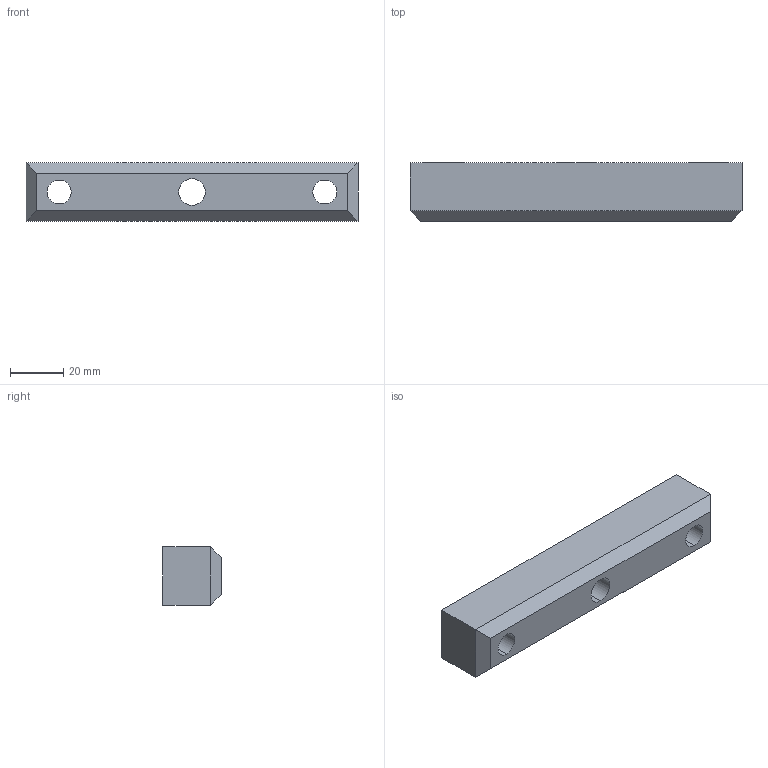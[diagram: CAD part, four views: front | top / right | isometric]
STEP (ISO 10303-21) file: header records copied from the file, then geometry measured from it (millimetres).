
FILE_DESCRIPTION(('CATIA V5 STEP Exchange'),'2;1');
FILE_NAME('C:\Users\Raffaele\Desktop\3D X SITO CF\761\GSB_OILLESS_M31705022125\STEP-2.03\761-022125.stp','2019-07-05T06:31:22+00:00',('none'),('none'),'CATIA Version 5 Release 20 GA (IN-10)','CATIA V5 STEP AP203','none');
FILE_SCHEMA(('CONFIG_CONTROL_DESIGN'));
Length unit declared in the file: millimetre
Products named in the file (1): 761-022125
Bounding box: 125 x 22 x 22 mm (x, y, z)
Volume: 50069.9 mm3; surface area: 13373.2 mm2
Topology: 1 solids, 1 shells, 25 faces, 80 edges, 60 vertices
Faces by surface type: plane 13, cylinder 12
Entity records: 1074 total; most frequent: CARTESIAN_POINT 316, ORIENTED_EDGE 160, DIRECTION 118, EDGE_CURVE 80, AXIS2_PLACEMENT_3D 62, VERTEX_POINT 60, CIRCLE 36, EDGE_LOOP 34
